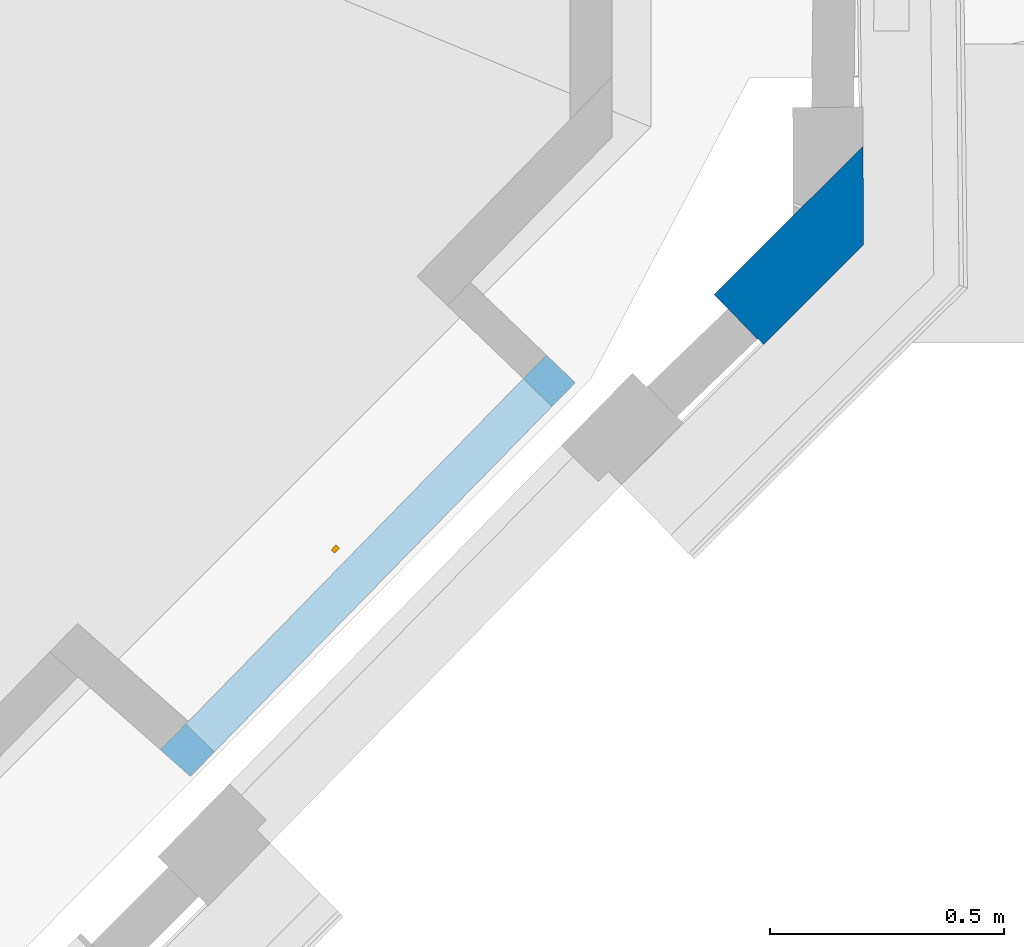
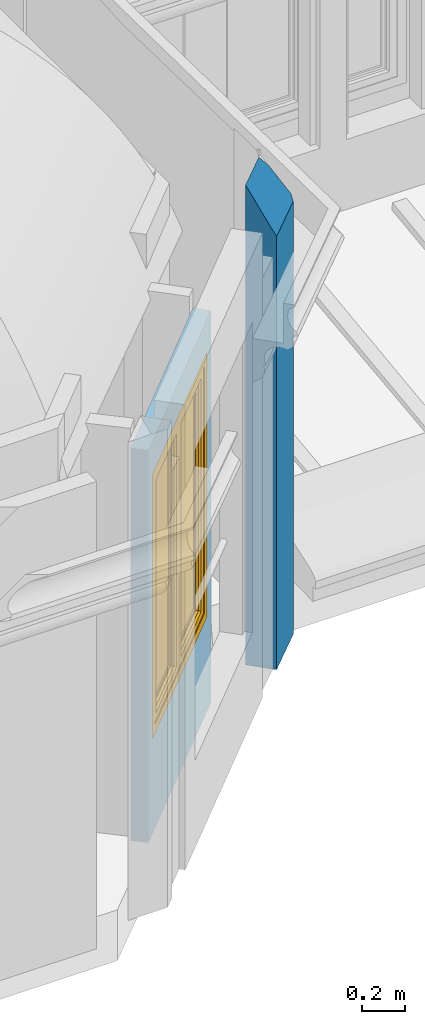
# One storey, part 40 of 72: 1 wall, 1 window, 1 opening, plus 1 element that does not belong to this part.
"""IFC2X3 building model written with IfcOpenShell, lengths in centimetres."""

from ifc_helpers import new_model, entity, si_unit, converted_unit, direction, frame, origin, origin_with_axes, place, context, subcontext, project, spatial, polyline, outline, extrude, faceted_brep, shape, source, transform, mapped, material, material_list, layer, layer_set, layer_usage, type_object, element, fill, save


model = new_model("IFC2X3")

# Units and contexts
model_context = context("Model", 3, precision=0.0001, world=origin(), true_north=direction((0.225632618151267, 0.974212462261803, 0.0)))
body_context = subcontext(model_context, "Body", "Model", "MODEL_VIEW")
footprint_context = subcontext(model_context, "FootPrint", "Model", "MODEL_VIEW")
profile_context = subcontext(model_context, "Profile", "Model", "MODEL_VIEW")
ifc_project = project(units=[si_unit("LENGTHUNIT", "METRE", prefix="CENTI"), si_unit("AREAUNIT", "SQUARE_METRE", prefix="CENTI"), si_unit("VOLUMEUNIT", "CUBIC_METRE", prefix="CENTI"), converted_unit("PLANEANGLEUNIT", "DEGREE", entity("IfcRatioMeasure", 0.0174532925), si_unit("PLANEANGLEUNIT", "RADIAN"), dimensions=[0, 0, 0, 0, 0, 0, 0])], contexts=[model_context])

# Site, building, storey
site_placement = place(None, origin_with_axes())
site = spatial("IfcSite", under=ifc_project, at=site_placement, Name="Default Site", CompositionType="ELEMENT")
building_placement = place(site_placement, origin_with_axes())
building = spatial("IfcBuilding", under=site, at=building_placement, Name="Default Building", CompositionType="ELEMENT")
storey_placement = place(building_placement, frame((0.0, 0.0, 853.910374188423), z_axis=(0.0, 0.0, 1.0), x_axis=(1.0, 0.0, 0.0)))
storey = spatial("IfcBuildingStorey", under=building, at=storey_placement, Name="Niveau 2", CompositionType="ELEMENT", Elevation=853.910374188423)

# Wall
ifc_material_1 = material(Name="<aucun>")
ifc_layer_1 = layer(ifc_material_1, 15.0)
ifc_layer_set_1 = layer_set([ifc_layer_1], Name="default")
ifc_layer_usage_1 = layer_usage(ifc_layer_set_1, "AXIS2", "POSITIVE", -7.5)
wall_type_1 = type_object("IfcWallType", Name="default 150", PredefinedType="NOTDEFINED", material=ifc_layer_set_1)
wall_1_placement = place(storey_placement, frame((-683.206969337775, -982.952063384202, -1.95399252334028e-11), z_axis=(0.0, 0.0, 1.0), x_axis=(0.708592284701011, 0.705618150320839, 0.0)))
element("IfcWall", 1, at=wall_1_placement, inside=storey, type_object=wall_type_1, material=ifc_layer_usage_1, Name="Enveloppe 460650", context=body_context, shape_type="Brep", body=[
    faceted_brep([(19.0375270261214, 7.49998575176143, -2.33888428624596e-05), (2.30818070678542e-05, 7.49998599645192, -2.33888428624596e-05), (2.30818070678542e-05, 7.49998599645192, 273.462176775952), (19.0375270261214, 7.49998575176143, 273.332286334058), (23.7699542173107, 7.49999153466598, -2.33888428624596e-05), (19.0375270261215, 7.49999159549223, -2.33888428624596e-05), (19.0375270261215, 7.49999159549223, 273.332286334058), (23.7699542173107, 7.49999153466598, 273.299956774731), (44.8826722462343, 7.50002002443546, -2.33888428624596e-05), (36.3674390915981, 7.5000201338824, -2.33888428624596e-05), (36.3674390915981, 7.5000201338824, 260.195613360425), (44.8826722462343, 7.50002002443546, 249.476314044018), (23.7699542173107, 7.49999153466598, 260.195613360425), (25.9651017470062, 7.49999150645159, 260.195613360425), (25.9651017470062, 7.49999150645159, -2.33888428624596e-05), (25.9651017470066, 7.50002242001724, 260.195613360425), (26.7170032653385, 7.50002241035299, 260.195613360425), (26.7170032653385, 7.50002241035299, -2.33888428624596e-05), (25.9651017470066, 7.50002242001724, -2.33888428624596e-05), (26.7170032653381, 7.4999852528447, 260.195613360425), (36.3674390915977, 7.49998512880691, 260.195613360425), (36.3674390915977, 7.49998512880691, -2.33888428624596e-05), (26.7170032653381, 7.4999852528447, -2.33888428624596e-05), (-0.152486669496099, -5.7726230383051, -2.33888428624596e-05), (-1.05517365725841e-05, -5.77520694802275, -2.33888428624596e-05), (-1.05517365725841e-05, -5.77520694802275, 249.979758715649), (-0.152486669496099, -5.7726230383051, 249.985385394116), (-0.152486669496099, -5.7726230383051, 235.00001475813), (4.27591455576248e-05, -7.4999896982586, -2.33888428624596e-05), (0.486856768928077, -7.49998970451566, -2.33888428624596e-05), (0.486856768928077, -7.49998970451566, 246.925521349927), (4.27591455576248e-05, -7.4999896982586, 246.928859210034), (0.486856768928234, -7.49997743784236, -2.33888428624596e-05), (24.5762954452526, -7.49997774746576, -2.33888428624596e-05), (30.0251531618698, -7.49997781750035, -2.33888428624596e-05), (30.0251531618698, -7.49997781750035, 246.723914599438), (0.486856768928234, -7.49997743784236, 246.925521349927), (8.73295462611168e-06, 3.22610343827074, -2.33888428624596e-05), (2.30818077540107e-05, 7.50003938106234, -2.33888428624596e-05), (18.3634775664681, 6.82748773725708, -2.33888428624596e-05), (9.94773674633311, 7.08785780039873, -2.33888428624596e-05), (0.946823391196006, 7.36635110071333, -2.33888428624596e-05), (0.91067516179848, 6.19738865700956, -2.33888428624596e-05), (0.542611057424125, -5.69738721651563, -2.33888428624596e-05), (-1.04693274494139e-05, -5.77520208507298, -2.33888428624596e-05), (-1.04296989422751e-05, -5.77521235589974, 249.979764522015), (4.26965587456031e-05, -7.49997347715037, 246.92885003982), (0.4868567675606, -7.49997708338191, 246.925521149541), (0.542610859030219, -5.69733579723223, 250.113816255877), (0.910675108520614, 6.19740246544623, 271.151797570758), (0.946823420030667, 7.36634362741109, 273.219280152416), (9.94773666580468, 7.08787867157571, 272.665274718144), (18.363477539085, 6.82749483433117, 272.147246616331), (19.0375268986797, 7.5000187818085, 273.332267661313), (2.31784890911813e-05, 7.50001432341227, 273.462190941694), (8.72457231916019e-06, 3.22610561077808, 265.90211313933), (-1.04914962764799e-05, -7.49998969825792, -2.33888428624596e-05), (-1.04914962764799e-05, -7.49998969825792, 246.928859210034), (-1.04693274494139e-05, -5.77520208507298, 249.979758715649), (2.30268745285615e-05, 3.22610343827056, -2.33888428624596e-05), (2.30268745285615e-05, 3.22610343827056, 235.00001475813), (2.30268745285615e-05, 3.22610343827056, 265.902114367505), (2.30818077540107e-05, 7.50003938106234, 273.462176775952), (-0.152486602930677, -5.77262303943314, -2.33888428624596e-05), (-0.152486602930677, -5.77262303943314, 235.00001475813), (8.73295462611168e-06, 3.22610343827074, 235.00001475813), (8.66638920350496e-06, 3.22610343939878, 265.902114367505), (8.66638920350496e-06, 3.22610343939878, 235.00001475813), (27.5957282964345, 3.71059782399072, -2.33888428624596e-05), (31.6961406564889, -5.80669576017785, -2.33888428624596e-05), (30.0251531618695, -7.49999881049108, -2.33888428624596e-05), (0.946823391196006, 7.36635110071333, 273.219275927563), (0.486856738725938, -7.49996961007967, 246.925516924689), (30.0251530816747, -7.49997802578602, 246.723902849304), (31.6961405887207, -5.80667819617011, 249.70776087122), (27.5981609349, 3.70820639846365, 266.56652166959), (23.7699541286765, 7.50001450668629, 273.299943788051), (19.037526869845, 7.50002625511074, 273.33226343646), (18.3634775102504, 6.82750230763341, 272.147242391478), (27.5981470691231, 3.70816115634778, 266.566539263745), (27.5981470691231, 3.70816115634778, 260.195613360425), (34.4270745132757, -3.05587161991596, -2.33888428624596e-05), (30.1735789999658, 1.15716029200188, -2.33888428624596e-05), (36.3674390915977, 7.49998249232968, -2.33888428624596e-05), (36.3674333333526, 7.49998811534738, 260.195608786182), (30.1735707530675, 1.15716834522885, 260.195606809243), (34.4270549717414, -3.0558525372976, 249.662169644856), (32.6645563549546, -4.83527948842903, -2.33888428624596e-05), (29.4110528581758, 1.91244831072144, -2.33888428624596e-05), (29.4110528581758, 1.91244831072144, 262.083888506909), (32.6645385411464, -4.83526209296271, 249.693451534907), (34.4270375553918, -3.05583552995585, 249.662155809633), (30.1735533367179, 1.15718535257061, 260.195592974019), (30.1735814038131, 1.15716271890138, 260.195613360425), (29.4110528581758, 1.91244831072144, 260.195613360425), (27.599414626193, 3.70531192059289, -2.33888428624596e-05), (31.698004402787, -5.81110884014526, -2.33888428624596e-05), (31.698004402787, -5.81110884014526, 249.710631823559), (32.6645553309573, -4.83527848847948, 249.69346487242), (29.4110696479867, 1.91243191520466, 262.083901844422), (27.5981713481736, 3.70816522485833, 266.573509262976), (27.5981610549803, 3.70817527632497, 266.573501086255), (29.4110804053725, 1.91247612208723, 262.083888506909), (29.4110804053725, 1.91247612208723, 260.195613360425), (27.5981610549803, 3.70817527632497, 260.195613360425), (30.1735789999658, 1.15716029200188, 260.195613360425), (36.3674390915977, 7.49998249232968, 260.195613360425), (31.6980027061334, -5.81110715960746, -2.33888428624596e-05), (31.6980027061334, -5.81110715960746, 249.699950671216), (30.0251531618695, -7.49999881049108, 246.723914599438), (44.8826862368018, 7.5000061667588, -2.33888428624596e-05), (44.8826862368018, 7.5000061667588, 249.476314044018), (34.4270745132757, -3.05587161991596, 249.662185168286), (34.4270683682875, -3.05586553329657, -2.33888428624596e-05), (34.4270683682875, -3.05586553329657, 249.662185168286), (32.6645563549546, -4.83527948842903, 249.693465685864), (32.6645605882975, -4.83528368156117, -2.33888428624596e-05), (32.6645605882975, -4.83528368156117, 249.693465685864), (31.698004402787, -5.81110884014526, 249.699950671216)], [[[0, 1, 2, 3]], [[4, 5, 6, 7]], [[8, 9, 10, 11]], [[12, 13, 14, 4]], [[15, 16, 17, 18]], [[19, 20, 21, 22]], [[23, 24, 25, 26, 27]], [[28, 29, 30, 31]], [[32, 33, 34, 35, 36]], [[37, 38, 0, 39, 40, 41, 42, 43, 32, 28, 44, 23]], [[26, 45, 46, 47, 48, 49, 50, 51, 52, 53, 54, 55]], [[44, 56, 57, 58]], [[38, 59, 60, 61, 62]], [[37, 63, 64, 65]], [[26, 66, 67, 27]], [[39, 0, 4, 68, 69, 70, 32, 41]], [[71, 72, 73, 74, 75, 76, 77, 78]], [[7, 79, 80, 12]], [[81, 82, 83, 8]], [[11, 84, 85, 86]], [[82, 81, 87, 88]], [[89, 90, 91, 92]], [[89, 93, 94]], [[95, 88, 87, 96]], [[97, 98, 99, 100]], [[101, 102, 103, 104]], [[4, 83, 82]], [[105, 106, 12]], [[70, 107, 108, 109]], [[81, 110, 111, 112]], [[87, 113, 114, 115]], [[96, 116, 117, 97, 118]]]),
])

# Wall, opening, window
ifc_layer_2 = layer(ifc_material_1, 8.5)
ifc_layer_set_2 = layer_set([ifc_layer_2], Name="default")
ifc_layer_usage_2 = layer_usage(ifc_layer_set_2, "AXIS2", "POSITIVE", -4.25)
wall_type_2 = type_object("IfcWallType", Name="default 85", PredefinedType="NOTDEFINED", material=ifc_layer_set_2)
wall_2_placement = place(storey_placement, frame((-805.83974174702, -1080.1217663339, 1.4210854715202e-12), z_axis=(0.0, 0.0, 1.0), x_axis=(0.69895582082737, 0.715164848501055, 0.0)))
wall_2 = element("IfcWallStandardCase", 2, at=wall_2_placement, inside=storey, type_object=wall_type_2, material=ifc_layer_usage_2, Name="Enveloppe 161633", context=body_context, shape_type="SweptSolid", body=[
    extrude(outline(polyline([(3.36897348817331, 4.2500000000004), (3.79738570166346, -4.25000000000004), (121.166138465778, -4.24999999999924), (121.092915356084, 4.25000000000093), (3.36897348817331, 4.2500000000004)])), frame((0.0, 0.0, -3.5527136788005e-13), z_axis=(0.0, 0.0, 1.0), x_axis=(1.0, 0.0, 0.0)), (0.0, 0.0, 1.0), 223.703540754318),
])
opening_placement = place(wall_2_placement, frame((11.0550820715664, 0.0, 53.9999999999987), z_axis=(0.0, 0.0, 1.0), x_axis=(1.0, 6.60582699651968e-15, 0.0)))
cartesian_point_1 = entity("IfcCartesianPoint", [0.0, 0.0, 151.0])
cartesian_point_2 = entity("IfcCartesianPoint", [103.0, 4.25000000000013])
opening = element("IfcOpeningElement", 3, at=opening_placement, cuts=wall_2, Name="4294966431_11", ObjectType="Opening", shapes=[
    shape(body_context, "Body", "SweptSolid", [extrude(outline(polyline([(0.0, 151.0), (0.0, 0.0), (103.0, 0.0), (103.0, 151.0), (0.0, 151.0)])), frame((0.0, 14.25, 0.0), z_axis=(0.0, -1.0, 0.0), x_axis=(1.0, 0.0, 0.0)), (0.0, 0.0, 1.0), 28.5)]),
    shape(profile_context, "Profile", "GeometricCurveSet", [entity("IfcGeometricCurveSet", [entity("IfcPolyline", [cartesian_point_1, entity("IfcCartesianPoint", [0.0, 0.0, 0.0]), entity("IfcCartesianPoint", [103.0, 8.88178419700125e-14, 0.0]), entity("IfcCartesianPoint", [103.0, 8.88178419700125e-14, 151.0]), cartesian_point_1])])]),
    shape(footprint_context, "FootPrint", "GeometricCurveSet", [entity("IfcGeometricCurveSet", [entity("IfcPolyline", [cartesian_point_2, entity("IfcCartesianPoint", [0.0, 4.25000000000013]), entity("IfcCartesianPoint", [0.0, -4.25000000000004]), entity("IfcCartesianPoint", [103.0, -4.25000000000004]), cartesian_point_2])])]),
])
ifc_material_2 = material(Name="Transparent")
ifc_material_3 = material(Name="Bleu france")
ifc_material_4 = material(Name="Aluminium satiné")
ifc_material_list = material_list([ifc_material_2, ifc_material_3, ifc_material_4])
window_style = type_object("IfcWindowStyle", Name="FN[R] 2VB[1V] MM", ConstructionType="NOTDEFINED", OperationType="DOUBLE_PANEL_VERTICAL", ParameterTakesPrecedence=True, Sizeable=False, material=ifc_material_list)
shared_shape = source(origin_with_axes(), body_context, "Body", "Brep", [
    faceted_brep([(-46.5000003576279, 146.000003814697, -3.99999991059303), (-46.5000003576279, 146.000003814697, 3.99999991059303), (-46.5000003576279, 5.00000007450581, 3.99999991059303), (-46.5000003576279, 5.00000007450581, -3.99999991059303), (-51.4999985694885, 150.999999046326, 3.99999991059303), (-51.4999985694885, 1.77635683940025e-13, 3.99999991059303), (-51.4999985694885, 150.999999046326, -3.99999991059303), (-51.4999985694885, 1.77635683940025e-13, -3.99999991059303), (46.5000003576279, 5.0000000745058, 3.99999991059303), (46.5000003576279, 5.0000000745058, -3.99999991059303), (51.4999985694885, 1.77635683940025e-13, 3.99999991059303), (46.5000003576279, 5.00000007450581, 3.99999991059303), (51.4999985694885, 1.77635683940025e-13, -3.99999991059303), (46.5000003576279, 5.00000007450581, -3.99999991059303), (46.5000003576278, 146.000003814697, 3.99999991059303), (46.5000003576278, 146.000003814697, -3.99999991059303), (51.4999985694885, 150.999999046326, 3.99999991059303), (46.5000003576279, 146.000003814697, 3.99999991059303), (51.4999985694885, 150.999999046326, -3.99999991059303), (46.5000003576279, 146.000003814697, -3.99999991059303)], [[[0, 1, 2, 3]], [[1, 4, 5, 2]], [[4, 6, 7, 5]], [[6, 0, 3, 7]], [[3, 2, 8, 9]], [[2, 5, 10, 11]], [[5, 7, 12, 10]], [[7, 3, 13, 12]], [[13, 11, 14, 15]], [[11, 10, 16, 17]], [[10, 12, 18, 16]], [[12, 13, 19, 18]], [[19, 17, 1, 0]], [[17, 16, 4, 1]], [[16, 18, 6, 4]], [[18, 19, 0, 6]]]),
    faceted_brep([(-42.5000011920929, 141.999995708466, -3.50000001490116), (-41.5000001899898, 140.99999666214, -2.49999901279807), (-41.5000001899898, 10.0000001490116, -2.49999901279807), (-42.5000011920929, 9.00000035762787, -3.50000001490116), (-41.499999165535, 140.99999666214, -2.5000000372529), (-41.499999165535, 140.99999666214, 3.50000001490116), (-41.499999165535, 10.0000001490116, 3.50000001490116), (-41.499999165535, 10.0000001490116, -2.5000000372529), (-46.5000003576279, 146.000003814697, 3.50000001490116), (-46.5000003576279, 5.00000007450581, 3.50000001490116), (-46.5000003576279, 146.000003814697, -3.50000001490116), (-46.5000003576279, 5.00000007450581, -3.50000001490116), (-41.499999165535, 10.0000002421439, -2.50000013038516), (-5.00000007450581, 10.0000002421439, -2.50000013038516), (-3.99999991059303, 9.00000035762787, -3.50000001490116), (-5.00000007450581, 10.0000001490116, 3.50000001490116), (-5.00000007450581, 10.0000001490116, -2.5000000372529), (1.4432899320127e-13, 5.00000007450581, 3.50000001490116), (1.4432899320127e-13, 5.00000007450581, -3.50000001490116), (-4.99999998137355, 10.0000001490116, -2.49999994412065), (-4.99999998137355, 140.99999666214, -2.49999994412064), (-3.99999991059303, 141.999995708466, -3.50000001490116), (-5.0000000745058, 140.99999666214, 3.50000001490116), (-5.0000000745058, 140.99999666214, -2.5000000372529), (1.55431223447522e-13, 146.000003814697, 3.50000001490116), (-5.00000007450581, 140.99999666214, 3.50000001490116), (1.55431223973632e-13, 146.000003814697, -3.50000001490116), (1.55431223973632e-13, 146.000003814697, 3.50000001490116), (1.55431223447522e-13, 146.000003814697, -3.50000001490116), (-5.00000007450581, 140.999996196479, -2.50000050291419), (-41.499999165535, 140.999996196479, -2.50000050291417), (-42.5000011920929, 141.999995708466, -3.50000001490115), (-5.00000007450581, 140.99999666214, -2.5000000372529)], [[[0, 1, 2, 3]], [[4, 5, 6, 7]], [[5, 8, 9, 6]], [[8, 10, 11, 9]], [[10, 0, 3, 11]], [[3, 12, 13, 14]], [[7, 6, 15, 16]], [[6, 9, 17, 15]], [[9, 11, 18, 17]], [[11, 3, 14, 18]], [[14, 19, 20, 21]], [[16, 15, 22, 23]], [[15, 17, 24, 25]], [[17, 18, 26, 27]], [[18, 14, 21, 28]], [[21, 29, 30, 31]], [[32, 25, 5, 4]], [[25, 24, 8, 5]], [[24, 28, 10, 8]], [[28, 21, 0, 10]]]),
    faceted_brep([(-40.0000005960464, 139.499998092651, -0.999999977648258), (-39.500000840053, 138.999998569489, -0.500000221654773), (-39.500000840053, 11.9999997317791, -0.500000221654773), (-40.0000005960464, 11.5000002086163, -0.999999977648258), (-39.5000010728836, 138.999998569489, -0.499999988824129), (-39.5000010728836, 138.999998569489, 0.499999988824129), (-39.5000010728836, 11.9999997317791, 0.499999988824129), (-39.5000010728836, 11.9999997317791, -0.499999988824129), (-40.0000008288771, 139.499998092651, 0.999999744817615), (-40.0000008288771, 11.5000002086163, 0.999999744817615), (-40.0000005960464, 139.499998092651, 0.999999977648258), (-41.499999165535, 140.99999666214, 0.999999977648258), (-41.499999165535, 10.0000001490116, 0.999999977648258), (-40.0000005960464, 11.5000002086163, 0.999999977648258), (-41.499999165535, 140.99999666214, -0.999999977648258), (-41.499999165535, 10.0000001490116, -0.999999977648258), (-39.5000010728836, 11.9999999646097, -0.500000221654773), (-7.00000002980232, 11.9999999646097, -0.500000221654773), (-6.49999976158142, 11.5000002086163, -0.999999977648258), (-7.00000002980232, 11.9999997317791, 0.499999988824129), (-7.00000002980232, 11.9999997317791, -0.499999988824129), (-40.0000005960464, 11.4999999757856, 0.999999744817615), (-6.49999976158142, 11.4999999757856, 0.999999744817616), (-7.00000002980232, 11.9999997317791, 0.499999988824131), (-5.00000007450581, 10.0000001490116, 0.999999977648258), (-6.49999976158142, 11.5000002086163, 0.999999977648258), (-5.00000007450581, 10.0000001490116, -0.999999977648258), (-6.99999989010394, 11.9999997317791, -0.499999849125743), (-6.99999989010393, 138.999998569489, -0.49999984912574), (-6.49999976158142, 139.499998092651, -0.999999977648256), (-7.00000002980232, 138.999998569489, 0.499999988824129), (-7.00000002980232, 138.999998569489, -0.499999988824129), (-6.49999990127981, 11.5000002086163, 1.00000011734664), (-6.4999999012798, 139.499998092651, 1.00000011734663), (-7.00000002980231, 138.999998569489, 0.499999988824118), (-5.00000007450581, 140.99999666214, 0.999999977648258), (-6.49999976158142, 139.499998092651, 0.999999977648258), (-5.0000000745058, 140.99999666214, -0.999999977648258), (-5.0000000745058, 140.99999666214, 0.999999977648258), (-6.49999976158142, 139.499998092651, -0.999999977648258), (-5.00000007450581, 140.99999666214, -0.999999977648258), (-7.00000002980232, 138.999998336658, -0.500000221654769), (-39.5000010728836, 138.999998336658, -0.500000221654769), (-6.49999976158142, 139.499998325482, 0.999999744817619), (-40.0000005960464, 139.499998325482, 0.999999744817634), (-39.5000010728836, 138.999998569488, 0.499999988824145)], [[[0, 1, 2, 3]], [[4, 5, 6, 7]], [[5, 8, 9, 6]], [[10, 11, 12, 13]], [[11, 14, 15, 12]], [[14, 0, 3, 15]], [[3, 16, 17, 18]], [[7, 6, 19, 20]], [[6, 21, 22, 23]], [[13, 12, 24, 25]], [[12, 15, 26, 24]], [[15, 3, 18, 26]], [[18, 27, 28, 29]], [[20, 19, 30, 31]], [[19, 32, 33, 34]], [[25, 24, 35, 36]], [[24, 26, 37, 38]], [[26, 18, 39, 40]], [[39, 41, 42, 0]], [[31, 30, 5, 4]], [[30, 43, 44, 45]], [[36, 35, 11, 10]], [[35, 40, 14, 11]], [[40, 39, 0, 14]]]),
    faceted_brep([(-7.00000002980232, 138.999998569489, -0.499999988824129), (-7.00000002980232, 11.9999997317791, -0.499999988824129), (-39.5000010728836, 11.9999997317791, -0.499999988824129), (-39.5000010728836, 138.999998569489, -0.499999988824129), (-39.5000010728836, 138.999998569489, 0.499999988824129), (-39.5000010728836, 11.9999997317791, 0.499999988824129), (-7.00000002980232, 11.9999997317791, 0.499999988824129), (-7.00000002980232, 138.999998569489, 0.499999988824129), (-7.00000002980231, 138.999998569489, -0.499999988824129), (-7.00000002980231, 138.999998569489, 0.499999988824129)], [[[0, 1, 2, 3]], [[4, 5, 6, 7]], [[3, 2, 5, 4]], [[2, 1, 6, 5]], [[1, 8, 9, 6]], [[0, 3, 4, 7]]]),
    faceted_brep([(3.99999991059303, 141.999995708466, -3.50000001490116), (4.99999998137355, 140.99999666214, -2.49999994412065), (4.99999998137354, 10.0000001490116, -2.49999994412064), (3.99999991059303, 9.00000035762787, -3.50000001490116), (5.00000007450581, 140.99999666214, -2.5000000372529), (5.00000007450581, 140.99999666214, 3.50000001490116), (5.0000000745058, 10.0000001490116, 3.50000001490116), (5.0000000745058, 10.0000001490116, -2.5000000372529), (1.55431223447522e-13, 146.000003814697, 3.50000001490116), (1.4432899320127e-13, 5.00000007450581, 3.50000001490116), (5.00000007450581, 10.0000001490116, 3.50000001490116), (1.55431223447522e-13, 146.000003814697, -3.50000001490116), (1.4432899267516e-13, 5.00000007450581, -3.50000001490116), (1.4432899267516e-13, 5.00000007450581, 3.50000001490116), (1.4432899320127e-13, 5.00000007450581, -3.50000001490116), (5.00000007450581, 10.0000002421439, -2.50000013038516), (41.499999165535, 10.0000002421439, -2.50000013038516), (42.5000011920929, 9.00000035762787, -3.50000001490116), (5.00000007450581, 10.0000001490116, -2.5000000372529), (41.499999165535, 10.0000001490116, 3.50000001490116), (41.499999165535, 10.0000001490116, -2.5000000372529), (46.5000003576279, 5.00000007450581, 3.50000001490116), (46.5000003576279, 5.00000007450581, -3.50000001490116), (41.5000001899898, 10.0000001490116, -2.49999901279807), (41.5000001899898, 140.99999666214, -2.49999901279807), (42.5000011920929, 141.999995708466, -3.50000001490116), (41.499999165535, 140.99999666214, 3.50000001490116), (41.499999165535, 140.99999666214, -2.5000000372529), (46.5000003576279, 146.000003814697, 3.50000001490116), (46.5000003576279, 146.000003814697, -3.50000001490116), (41.499999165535, 140.999996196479, -2.50000050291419), (5.00000007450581, 140.999996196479, -2.50000050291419)], [[[0, 1, 2, 3]], [[4, 5, 6, 7]], [[5, 8, 9, 10]], [[8, 11, 12, 13]], [[11, 0, 3, 14]], [[3, 15, 16, 17]], [[18, 10, 19, 20]], [[10, 9, 21, 19]], [[9, 14, 22, 21]], [[14, 3, 17, 22]], [[17, 23, 24, 25]], [[20, 19, 26, 27]], [[19, 21, 28, 26]], [[21, 22, 29, 28]], [[22, 17, 25, 29]], [[25, 30, 31, 0]], [[27, 26, 5, 4]], [[26, 28, 8, 5]], [[28, 29, 11, 8]], [[29, 25, 0, 11]]]),
    faceted_brep([(4.50000017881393, 77.4999976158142, 3.50000001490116), (4.50000017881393, 73.5000014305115, 3.50000001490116), (0.499999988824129, 73.5000014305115, 3.50000001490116), (0.499999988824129, 77.4999976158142, 3.50000001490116), (0.499999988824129, 77.4999976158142, 4.30000014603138), (0.499999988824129, 73.5000014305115, 4.30000014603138), (4.50000017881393, 73.5000014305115, 4.30000014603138), (4.50000017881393, 77.4999976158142, 4.30000014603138)], [[[0, 1, 2, 3]], [[4, 5, 6, 7]], [[3, 2, 5, 4]], [[2, 1, 6, 5]], [[1, 0, 7, 6]], [[0, 3, 4, 7]]]),
    faceted_brep([(3.24999988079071, 75.9999990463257, 4.30000014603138), (3.24999988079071, 75.0, 4.30000014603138), (1.75000000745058, 75.0, 4.30000014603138), (1.75000000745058, 75.9999990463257, 4.30000014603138), (1.75000000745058, 75.9999990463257, 8.29999968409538), (1.75000000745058, 74.999999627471, 7.30000026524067), (3.24999988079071, 74.999999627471, 7.30000026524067), (3.24999988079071, 75.9999990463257, 8.29999968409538), (1.75000000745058, 75.0, 7.29999989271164), (3.24999988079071, 75.0, 7.29999989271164)], [[[0, 1, 2, 3]], [[4, 5, 6, 7]], [[3, 2, 8, 4]], [[2, 1, 9, 8]], [[1, 0, 7, 9]], [[0, 3, 4, 7]]]),
    faceted_brep([(3.24999988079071, 75.9999990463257, 8.29999968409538), (3.24999988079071, 74.999999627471, 7.30000026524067), (1.75000000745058, 74.999999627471, 7.30000026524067), (1.75000000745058, 75.9999990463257, 8.29999968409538), (1.75000000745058, 62.9999995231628, 8.29999968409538), (1.75000000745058, 62.9999995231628, 7.29999989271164), (3.24999988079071, 62.9999995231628, 7.29999989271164), (3.24999988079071, 62.9999995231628, 8.29999968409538), (1.75000000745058, 75.0, 7.29999989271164), (3.24999988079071, 75.0, 7.29999989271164)], [[[0, 1, 2, 3]], [[4, 5, 6, 7]], [[3, 8, 5, 4]], [[8, 9, 6, 5]], [[9, 0, 7, 6]], [[0, 3, 4, 7]]]),
    faceted_brep([(6.49999976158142, 139.499998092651, -0.999999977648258), (6.99999989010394, 138.999998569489, -0.499999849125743), (6.99999989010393, 11.9999997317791, -0.499999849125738), (6.49999976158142, 11.5000002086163, -0.999999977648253), (7.00000002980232, 138.999998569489, -0.499999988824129), (7.00000002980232, 138.999998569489, 0.499999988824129), (7.00000002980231, 11.9999997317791, 0.499999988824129), (7.00000002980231, 11.9999997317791, -0.499999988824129), (6.49999990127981, 139.499998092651, 1.00000011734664), (6.4999999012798, 11.5000002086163, 1.00000011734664), (7.00000002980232, 11.9999997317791, 0.499999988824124), (6.49999976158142, 139.499998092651, 0.999999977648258), (5.00000007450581, 140.99999666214, 0.999999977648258), (5.00000007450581, 10.0000001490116, 0.999999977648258), (6.49999976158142, 11.5000002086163, 0.999999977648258), (5.00000007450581, 140.99999666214, -0.999999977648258), (5.0000000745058, 10.0000001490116, -0.999999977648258), (5.0000000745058, 10.0000001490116, 0.999999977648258), (6.49999976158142, 11.5000002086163, -0.999999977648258), (5.00000007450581, 10.0000001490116, -0.999999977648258), (7.00000002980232, 11.9999999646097, -0.500000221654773), (39.5000010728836, 11.9999999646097, -0.500000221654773), (40.0000005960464, 11.5000002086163, -0.999999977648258), (7.00000002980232, 11.9999997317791, -0.499999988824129), (7.00000002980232, 11.9999997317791, 0.499999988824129), (39.5000010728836, 11.9999997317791, 0.499999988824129), (39.5000010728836, 11.9999997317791, -0.499999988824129), (6.49999976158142, 11.4999999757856, 0.999999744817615), (40.0000005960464, 11.4999999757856, 0.999999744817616), (39.5000010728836, 11.9999997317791, 0.499999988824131), (41.499999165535, 10.0000001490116, 0.999999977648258), (40.0000005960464, 11.5000002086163, 0.999999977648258), (41.499999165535, 10.0000001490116, -0.999999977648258), (39.500000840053, 11.9999997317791, -0.500000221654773), (39.500000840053, 138.999998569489, -0.500000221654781), (40.0000005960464, 139.499998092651, -0.999999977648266), (39.5000010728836, 138.999998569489, 0.499999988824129), (39.5000010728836, 138.999998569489, -0.499999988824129), (40.0000008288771, 11.5000002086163, 0.999999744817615), (40.0000008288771, 139.499998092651, 0.999999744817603), (39.5000010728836, 138.999998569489, 0.499999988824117), (41.499999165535, 140.99999666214, 0.999999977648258), (40.0000005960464, 139.499998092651, 0.999999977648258), (41.499999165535, 140.99999666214, -0.999999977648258), (40.0000005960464, 139.499998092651, -0.999999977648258), (39.5000010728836, 138.999998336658, -0.500000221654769), (7.00000002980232, 138.999998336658, -0.500000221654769), (40.0000005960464, 139.499998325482, 0.999999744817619), (6.49999976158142, 139.499998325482, 0.999999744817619)], [[[0, 1, 2, 3]], [[4, 5, 6, 7]], [[5, 8, 9, 10]], [[11, 12, 13, 14]], [[12, 15, 16, 17]], [[15, 0, 18, 19]], [[18, 20, 21, 22]], [[23, 24, 25, 26]], [[24, 27, 28, 29]], [[14, 13, 30, 31]], [[13, 19, 32, 30]], [[19, 18, 22, 32]], [[22, 33, 34, 35]], [[26, 25, 36, 37]], [[25, 38, 39, 40]], [[31, 30, 41, 42]], [[30, 32, 43, 41]], [[32, 22, 44, 43]], [[44, 45, 46, 0]], [[37, 36, 5, 4]], [[36, 47, 48, 5]], [[42, 41, 12, 11]], [[41, 43, 15, 12]], [[43, 44, 0, 15]]]),
    faceted_brep([(39.5000010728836, 138.999998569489, -0.499999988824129), (39.5000010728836, 11.9999997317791, -0.499999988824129), (7.00000002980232, 11.9999997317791, -0.499999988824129), (7.00000002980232, 138.999998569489, -0.499999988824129), (7.00000002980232, 138.999998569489, 0.499999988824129), (7.00000002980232, 11.9999997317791, 0.499999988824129), (39.5000010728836, 11.9999997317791, 0.499999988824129), (39.5000010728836, 138.999998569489, 0.499999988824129), (7.00000002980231, 11.9999997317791, -0.499999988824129), (7.00000002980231, 11.9999997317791, 0.499999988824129)], [[[0, 1, 2, 3]], [[4, 5, 6, 7]], [[3, 8, 9, 4]], [[2, 1, 6, 5]], [[1, 0, 7, 6]], [[0, 3, 4, 7]]]),
])
window_placement = place(opening_placement, frame((0.0, -4.25, 0.0), z_axis=(0.0, 0.0, 1.0), x_axis=(1.0, 0.0, 0.0)))
window = element("IfcWindow", 4, at=window_placement, inside=storey, type_object=window_style, material=ifc_material_list, Name="Fenêtre 162063", OverallHeight=151.0, OverallWidth=103.0, context=body_context, shape_type="MappedRepresentation", body=[
    mapped(shared_shape, transform((51.5000000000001, 4.00000000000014, 0.0), x_axis=(-1.0, 0.0, 0.0), y_axis=(0.0, 0.0, 1.0), z_axis=(0.0, 1.0, 0.0), scale=1.0, scale2=1.0, scale3=1.0, uniform=False)),
])
fill(opening, window)

save(model, "model.ifc")
